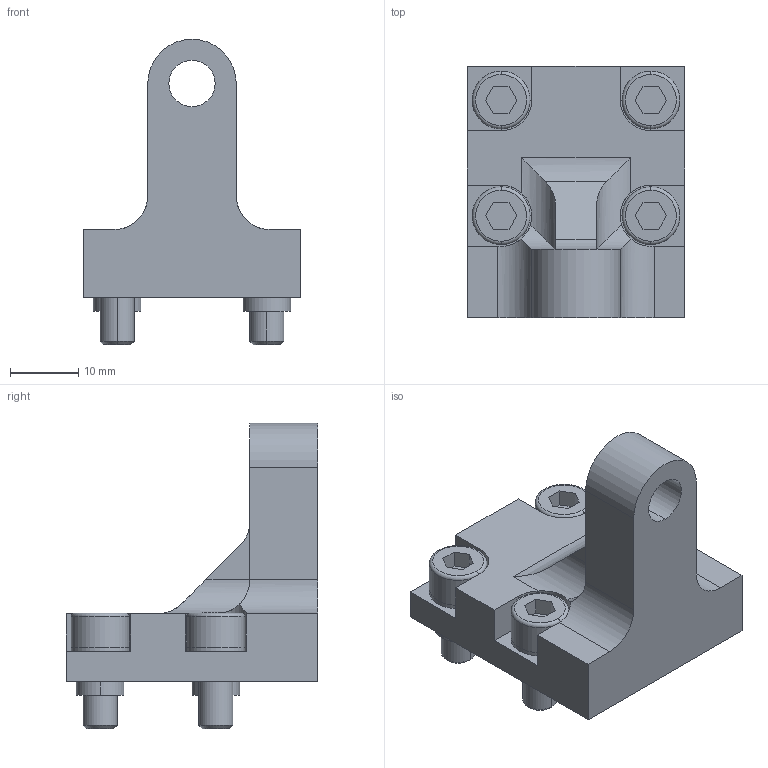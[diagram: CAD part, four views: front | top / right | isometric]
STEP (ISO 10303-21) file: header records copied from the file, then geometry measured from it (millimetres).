
FILE_DESCRIPTION (( 'STEP AP214' ), '1' );
FILE_NAME ('867.1-32-M8-E-NC.step', '2023-08-01T13:22:20', ( '' ), ( '' ), 'SwSTEP 2.0', 'SolidWorks 2022', '' );
FILE_SCHEMA (( 'AUTOMOTIVE_DESIGN' ));
Length unit declared in the file: millimetre
Products named in the file (1): 867.1-32-M8-E-NC
Bounding box: 32 x 37 x 44.9 mm (x, y, z)
Volume: 15460 mm3; surface area: 7003 mm2
Topology: 1 solids, 3 shells, 146 faces, 340 edges, 220 vertices
Faces by surface type: plane 74, cylinder 56, cone 8, torus 8
Entity records: 5340 total; most frequent: CARTESIAN_POINT 796, DIRECTION 744, ORIENTED_EDGE 680, EDGE_CURVE 340, AXIS2_PLACEMENT_3D 272, VERTEX_POINT 220, VECTOR 200, LINE 200
